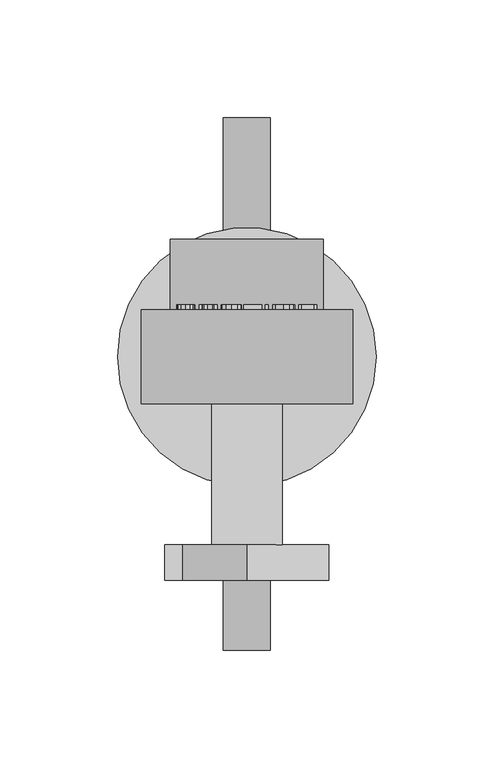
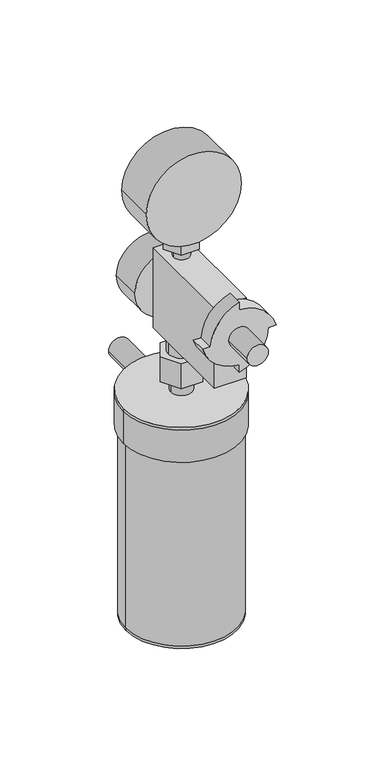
"""IFC4 building model written with IfcOpenShell, lengths in millimetres: proxy geometry, BIMHealth-Flowmeter_Suction-LOD2A-v1 : BIMHealth-Flowmeter_Suction-LOD2A-v1."""

from ifc_helpers import new_model, si_unit, point, frame, frame_2d, origin, place, context, project, spatial, polyline, circle_curve, trimmed, segment, composite_curve, outline, extrude, source, transform, mapped, element, save
from ifc_brep_helpers import plane_surface, cylinder_surface, revolved_surface, advanced_brep


def generic_models_4addcc0f(model_context):
    return source(origin(), model_context, "Body", "SolidModel", [
        extrude(outline(polyline([(1311.533621, -29.8591458), (1309.6538134, -29.3278958), (1308.408621, -27.9372708), (1307.9951595, -25.7389535), (1308.378573, -23.8771746), (1309.4530922, -22.6079439), (1310.925448, -22.1668381), (1312.3172749, -22.5502515), (1313.314871, -23.7413573), (1313.9326595, -25.9192419), (1314.6201595, -27.9288573), (1315.4735249, -28.3206842), (1316.4951595, -27.7677996), (1316.9182364, -26.0057804), (1316.4903518, -24.2485689), (1315.2259287, -23.5514535), (1315.2259287, -22.3206842), (1316.7667941, -22.808665), (1317.7980441, -24.1067419), (1318.1490057, -26.0538573), (1317.8136691, -27.8783765), (1316.830496, -29.1247708), (1315.4374672, -29.5514535), (1314.2139095, -29.2065015), (1313.2980441, -28.1596265), (1312.691073, -26.23054), (1312.221121, -24.4384727), (1311.6622268, -23.6019342), (1310.894198, -23.3976073), (1310.0684768, -23.6704439), (1309.4506884, -24.5009727), (1309.2259287, -25.7870304), (1309.5228037, -27.2629919), (1310.3016499, -28.2317419), (1311.533621, -28.6283765), (1311.533621, -29.8591458)])), frame((0.0, 0.0, 0.0), z_axis=(0.0, 1.0, 0.0), x_axis=(0.0, 0.0, 1.0)), (0.0, 0.0, 1.0), 2.0),
        extrude(outline(polyline([(1317.9951595, -13.8591458), (1312.3581403, -13.8591458), (1309.8725634, -14.4817419), (1309.2259287, -16.5658765), (1309.5528518, -18.0129919), (1310.4819384, -18.8471265), (1312.3581403, -19.089915), (1317.9951595, -19.089915), (1317.9951595, -20.3206842), (1312.314871, -20.3206842), (1309.8497268, -19.9468862), (1308.471121, -18.69929), (1307.9951595, -16.4504919), (1308.5420345, -14.1668381), (1309.9603037, -12.9625112), (1312.314871, -12.6283765), (1317.9951595, -12.6283765), (1317.9951595, -13.8591458)])), frame((0.0, 0.0, 0.0), z_axis=(0.0, 1.0, 0.0), x_axis=(0.0, 0.0, 1.0)), (0.0, 0.0, 1.0), 2.0),
        extrude(outline(polyline([(1311.6490057, -3.5514535), (1309.8365057, -4.5959246), (1309.2259287, -6.4793381), (1309.674246, -8.1776554), (1311.0288134, -9.3339054), (1313.1490057, -9.7052996), (1314.9783326, -9.3915977), (1316.3917941, -8.3038573), (1316.9182364, -6.3783765), (1316.4434768, -4.714915), (1314.9302557, -3.7052996), (1315.2235249, -2.4745304), (1317.3821787, -3.8651554), (1318.1490057, -6.3302996), (1317.5564576, -8.6956842), (1315.8220826, -10.3531362), (1313.1466018, -10.9360689), (1310.5143903, -10.4204439), (1308.6417941, -8.91804), (1307.9951595, -6.3567419), (1308.8497268, -3.7798189), (1311.331698, -2.3206842), (1311.6490057, -3.5514535)])), frame((0.0, 0.0, 0.0), z_axis=(0.0, 1.0, 0.0), x_axis=(0.0, 0.0, 1.0)), (0.0, 0.0, 1.0), 2.0),
        extrude(outline(polyline([(1308.1490057, 1.8331619), (1308.1490057, 3.0639311), (1316.7643903, 3.0639311), (1316.7643903, 6.2947004), (1317.9951595, 6.2947004), (1317.9951595, -1.3976073), (1316.7643903, -1.3976073), (1316.7643903, 1.8331619), (1308.1490057, 1.8331619)])), frame((0.0, 0.0, 0.0), z_axis=(0.0, 1.0, 0.0), x_axis=(0.0, 0.0, 1.0)), (0.0, 0.0, 1.0), 2.0),
        extrude(outline(polyline([(9.0639311, 2.0), (9.0639311, 0.0), (7.8331619, 0.0), (7.8331619, 2.0), (9.0639311, 2.0)])), frame((0.0, 0.0, 1308.1490057), z_axis=(0.0, 0.0, 1.0), x_axis=(1.0, 0.0, 0.0)), (0.0, 0.0, 1.0), 9.8461538),
        extrude(outline(polyline([(1312.9422749, 11.0639311), (1310.4915537, 11.6264311), (1308.6646307, 13.2802773), (1307.9951595, 15.7562388), (1308.6009287, 18.1396523), (1310.3845826, 19.8463831), (1313.0552557, 20.4485465), (1315.689871, 19.8764311), (1317.4999672, 18.2129696), (1318.1490057, 15.7634504), (1316.7667941, 12.3764311), (1312.9422749, 11.0639311)]), holes=[polyline([(1312.9302557, 12.2947004), (1315.9987653, 13.3211427), (1316.9182364, 15.7706619), (1316.441073, 17.5771523), (1315.096121, 18.7995081), (1313.064871, 19.2177773), (1310.2259287, 18.2406138), (1309.2259287, 15.7490273), (1310.2163134, 13.2790754), (1312.9302557, 12.2947004)])]), frame((0.0, 0.0, 0.0), z_axis=(0.0, 1.0, 0.0), x_axis=(0.0, 0.0, 1.0)), (0.0, 0.0, 1.0), 2.0),
        extrude(outline(polyline([(1308.1490057, 22.1408542), (1308.1490057, 23.3716235), (1315.9518903, 23.3716235), (1308.1490057, 28.5158542), (1308.1490057, 29.8331619), (1317.9951595, 29.8331619), (1317.9951595, 28.6023927), (1310.1946787, 28.6023927), (1317.9951595, 23.4581619), (1317.9951595, 22.1408542), (1308.1490057, 22.1408542)])), frame((0.0, 0.0, 0.0), z_axis=(0.0, 1.0, 0.0), x_axis=(0.0, 0.0, 1.0)), (0.0, 0.0, 1.0), 2.0),
        extrude(outline(composite_curve([segment(trimmed(circle_curve(frame_2d((1215.0, 0.0)), 10.0), [point((1215.0, 10.0))], [point((1215.0, -10.0))], False, "CARTESIAN"), True, "CONTINUOUS"), segment(trimmed(circle_curve(frame_2d((1215.0, 0.0)), 10.0), [point((1215.0, -10.0))], [point((1215.0, 10.0))], False, "CARTESIAN"), True, "CONTINUOUS")], self_intersect=False)), frame((0.0, -144.9187419, 0.0), z_axis=(0.0, 1.0, 0.0), x_axis=(0.0, 0.0, 1.0)), (0.0, 0.0, 1.0), 29.9187419),
        extrude(outline(composite_curve([segment(trimmed(circle_curve(frame_2d((1085.2946701, 0.0)), 10.0), [point((1085.2946701, 10.0))], [point((1085.2946701, -10.0))], False, "CARTESIAN"), True, "CONTINUOUS"), segment(trimmed(circle_curve(frame_2d((1085.2946701, 0.0)), 10.0), [point((1085.2946701, -10.0))], [point((1085.2946701, 10.0))], False, "CARTESIAN"), True, "CONTINUOUS")], self_intersect=False)), frame((0.0, 0.0, 0.0), z_axis=(0.0, 1.0, 0.0), x_axis=(0.0, 0.0, 1.0)), (0.0, 0.0, 1.0), 81.7607119),
        advanced_brep(
        [(-55.0, -20.0, 1105.6199974), (55.0, -20.0, 1105.6199974), (52.5, -20.0, 1102.8021553), (-52.5, -20.0, 1102.8021553), (55.0, -20.0, 1102.8021553), (-55.0, -20.0, 1102.8021553), (-55.0, -20.0, 1070.6762911), (55.0, -20.0, 1070.6762911), (52.5, -20.0, 1070.6762911), (-52.5, -20.0, 1070.6762911)],
        [
            (0, 1, circle_curve(frame((0.0, -20.0, 1105.6199974), z_axis=(0.0, 0.0, 1.0), x_axis=(1.0, 0.0, 0.0)), 55.0)),
            (1, 0, circle_curve(frame((0.0, -20.0, 1105.6199974), z_axis=(0.0, 0.0, 1.0), x_axis=(1.0, 0.0, 0.0)), 55.0)),
            (2, 3, circle_curve(frame((0.0, -20.0, 1102.8021553), z_axis=(0.0, 0.0, -1.0), x_axis=(1.0, 0.0, 0.0)), 52.5)),
            (3, 2, circle_curve(frame((0.0, -20.0, 1102.8021553), z_axis=(0.0, 0.0, -1.0), x_axis=(1.0, 0.0, 0.0)), 52.5)),
            (1, 4),
            (4, 5, circle_curve(frame((0.0, -20.0, 1102.8021553), z_axis=(0.0, 0.0, 1.0), x_axis=(1.0, 0.0, 0.0)), 55.0)),
            (5, 0),
            (5, 4, circle_curve(frame((0.0, -20.0, 1102.8021553), z_axis=(0.0, 0.0, 1.0), x_axis=(1.0, 0.0, 0.0)), 55.0)),
            (6, 7, circle_curve(frame((0.0, -20.0, 1070.6762911), z_axis=(0.0, 0.0, -1.0), x_axis=(1.0, 0.0, 0.0)), 55.0)),
            (7, 6, circle_curve(frame((0.0, -20.0, 1070.6762911), z_axis=(0.0, 0.0, -1.0), x_axis=(1.0, 0.0, 0.0)), 55.0)),
            (8, 9, circle_curve(frame((0.0, -20.0, 1070.6762911), z_axis=(0.0, 0.0, 1.0), x_axis=(1.0, 0.0, 0.0)), 52.5)),
            (9, 8, circle_curve(frame((0.0, -20.0, 1070.6762911), z_axis=(0.0, 0.0, 1.0), x_axis=(1.0, 0.0, 0.0)), 52.5)),
            (6, 5),
            (4, 7),
            (8, 2),
            (3, 9),
        ],
        [
            plane_surface(frame((55.0, -20.0, 1105.6199974), z_axis=(0.0, 0.0, 1.0), x_axis=(0.0, -1.0, 0.0))),
            plane_surface(frame((55.0, -20.0, 1102.8021553), z_axis=(0.0, 0.0, -1.0), x_axis=(0.0, 1.0, 0.0))),
            cylinder_surface(frame((0.0, -20.0, 1102.8021553), z_axis=(0.0, 0.0, 1.0), x_axis=(1.0, 0.0, 0.0)), 55.0),
            plane_surface(frame((55.0, -20.0, 1070.6762911), z_axis=(0.0, 0.0, -1.0), x_axis=(0.0, 1.0, 0.0))),
            cylinder_surface(frame((0.0, -20.0, 1070.6762911), z_axis=(0.0, 0.0, 1.0), x_axis=(1.0, 0.0, 0.0)), 55.0),
            revolved_surface(polyline([(52.5, -20.0, 1070.6762911), (52.5, -20.0, 1102.8021553)]), (0.0, -20.0, 0.0), (0.0, 0.0, -1.0)),
        ],
        [
            (0, [[1, 2]]),
            (1, [[3, 4]]),
            (2, [[5, 6, 7, -2]]),
            (2, [[-7, 8, -5, -1]]),
            (3, [[9, 10], [11, 12]]),
            (4, [[13, -6, 14, -9]]),
            (4, [[-14, -8, -13, -10]]),
            (5, [[15, -4, 16, -11]]),
            (5, [[-16, -3, -15, -12]]),
        ],
    ),
        advanced_brep(
        [(-52.5, -20.0, 882.8021553), (52.5, -20.0, 882.8021553), (50.0, -20.0, 885.2126899), (-50.0, -20.0, 885.2126899), (-52.5, -20.0, 1100.4221861), (52.5, -20.0, 1100.4221861), (-50.0, -20.0, 1100.4221861), (50.0, -20.0, 1100.4221861), (-52.5, -20.0, 885.2126899), (52.5, -20.0, 885.2126899)],
        [
            (0, 1, circle_curve(frame((0.0, -20.0, 882.8021553), z_axis=(0.0, 0.0, -1.0), x_axis=(1.0, 0.0, 0.0)), 52.5)),
            (1, 0, circle_curve(frame((0.0, -20.0, 882.8021553), z_axis=(0.0, 0.0, -1.0), x_axis=(1.0, 0.0, 0.0)), 52.5)),
            (2, 3, circle_curve(frame((0.0, -20.0, 885.2126899), z_axis=(0.0, 0.0, 1.0), x_axis=(1.0, 0.0, 0.0)), 50.0)),
            (3, 2, circle_curve(frame((0.0, -20.0, 885.2126899), z_axis=(0.0, 0.0, 1.0), x_axis=(1.0, 0.0, 0.0)), 50.0)),
            (4, 5, circle_curve(frame((0.0, -20.0, 1100.4221861), z_axis=(0.0, 0.0, 1.0), x_axis=(1.0, 0.0, 0.0)), 52.5)),
            (5, 4, circle_curve(frame((0.0, -20.0, 1100.4221861), z_axis=(0.0, 0.0, 1.0), x_axis=(1.0, 0.0, 0.0)), 52.5)),
            (6, 7, circle_curve(frame((0.0, -20.0, 1100.4221861), z_axis=(0.0, 0.0, -1.0), x_axis=(1.0, 0.0, 0.0)), 50.0)),
            (7, 6, circle_curve(frame((0.0, -20.0, 1100.4221861), z_axis=(0.0, 0.0, -1.0), x_axis=(1.0, 0.0, 0.0)), 50.0)),
            (4, 8),
            (8, 9, circle_curve(frame((0.0, -20.0, 885.2126899), z_axis=(0.0, 0.0, 1.0), x_axis=(1.0, 0.0, 0.0)), 52.5)),
            (9, 5),
            (9, 8, circle_curve(frame((0.0, -20.0, 885.2126899), z_axis=(0.0, 0.0, 1.0), x_axis=(1.0, 0.0, 0.0)), 52.5)),
            (7, 2),
            (3, 6),
            (0, 8),
            (9, 1),
        ],
        [
            plane_surface(frame((52.5, -20.0, 882.8021553), z_axis=(0.0, 0.0, -1.0), x_axis=(0.0, 1.0, 0.0))),
            plane_surface(frame((52.5, -20.0, 885.2126899), z_axis=(0.0, 0.0, 1.0), x_axis=(0.0, -1.0, 0.0))),
            plane_surface(frame((52.5, -20.0, 1100.4221861), z_axis=(0.0, 0.0, 1.0), x_axis=(0.0, -1.0, 0.0))),
            cylinder_surface(frame((0.0, -20.0, 882.8021553), z_axis=(0.0, 0.0, 1.0), x_axis=(1.0, 0.0, 0.0)), 52.5),
            revolved_surface(polyline([(50.0, -20.0, 885.2126899), (50.0, -20.0, 1100.4221861)]), (0.0, -20.0, 0.0), (0.0, 0.0, -1.0)),
        ],
        [
            (0, [[1, 2]]),
            (1, [[3, 4]]),
            (2, [[5, 6], [7, 8]]),
            (3, [[9, 10, 11, -5]]),
            (3, [[-11, 12, -9, -6]]),
            (4, [[13, -4, 14, -8]]),
            (4, [[-14, -3, -13, -7]]),
            (3, [[15, -12, 16, -1]]),
            (3, [[-16, -10, -15, -2]]),
        ],
    ),
        extrude(outline(composite_curve([segment(trimmed(circle_curve(frame_2d((1204.401832, -1.6248415)), 37.9936724), [point((1215.0, 34.8607444))], [point((1242.3607444, 0.0))], False, "CARTESIAN"), True, "CONTINUOUS"), segment(polyline([(1242.3607444, 0.0), (1249.8607444, 0.0)]), True, "CONTINUOUS"), segment(trimmed(circle_curve(frame_2d((1213.3751585, 10.598168)), 37.9936724), [point((1249.8607444, 0.0))], [point((1215.0, -27.3607444))], False, "CARTESIAN"), True, "CONTINUOUS"), segment(polyline([(1215.0, -27.3607444), (1215.0, -34.8607444)]), True, "CONTINUOUS"), segment(trimmed(circle_curve(frame_2d((1225.598168, 1.6248415)), 37.9936724), [point((1215.0, -34.8607444))], [point((1187.6392556, 0.0))], False, "CARTESIAN"), True, "CONTINUOUS"), segment(polyline([(1187.6392556, 0.0), (1180.1392556, 0.0)]), True, "CONTINUOUS"), segment(trimmed(circle_curve(frame_2d((1216.6248415, -10.598168)), 37.9936724), [point((1180.1392556, 0.0))], [point((1215.0, 27.3607444))], False, "CARTESIAN"), True, "CONTINUOUS"), segment(polyline([(1215.0, 27.3607444), (1215.0, 34.8607444)]), True, "CONTINUOUS")], self_intersect=False)), frame((0.0, -115.0, 0.0), z_axis=(0.0, 1.0, 0.0), x_axis=(0.0, 0.0, 1.0)), (0.0, 0.0, 1.0), 15.0),
        extrude(outline(composite_curve([segment(trimmed(circle_curve(frame_2d((1307.6114455, 0.0)), 45.0), [point((1307.6114455, -45.0))], [point((1307.6114455, 45.0))], False, "CARTESIAN"), True, "CONTINUOUS"), segment(trimmed(circle_curve(frame_2d((1307.6114455, 0.0)), 45.0), [point((1307.6114455, 45.0))], [point((1307.6114455, -45.0))], False, "CARTESIAN"), True, "CONTINUOUS")], self_intersect=False)), frame((0.0, -40.0, 0.0), z_axis=(0.0, 1.0, 0.0), x_axis=(0.0, 0.0, 1.0)), (0.0, 0.0, 1.0), 40.0),
        extrude(outline(polyline([(8.5566243, -34.8205081), (-8.5566243, -34.8205081), (-17.1132487, -20.0), (-8.5566243, -5.1794919), (8.5566243, -5.1794919), (17.1132487, -20.0), (8.5566243, -34.8205081)])), frame((0.0, 0.0, 1251.3057227), z_axis=(0.0, 0.0, 1.0), x_axis=(1.0, 0.0, 0.0)), (0.0, 0.0, 1.0), 25.0),
        extrude(outline(composite_curve([segment(trimmed(circle_curve(frame_2d((0.0, -20.0)), 7.5), [point((-7.5, -20.0))], [point((7.5, -20.0))], False, "CARTESIAN"), True, "CONTINUOUS"), segment(trimmed(circle_curve(frame_2d((0.0, -20.0)), 7.5), [point((7.5, -20.0))], [point((-7.5, -20.0))], False, "CARTESIAN"), True, "CONTINUOUS")], self_intersect=False)), frame((0.0, 0.0, 1240.0), z_axis=(0.0, 0.0, 1.0), x_axis=(1.0, 0.0, 0.0)), (0.0, 0.0, 1.0), 11.3057227),
        extrude(outline(composite_curve([segment(trimmed(circle_curve(frame_2d((0.0, -20.0)), 10.0), [point((-10.0, -20.0))], [point((10.0, -20.0))], False, "CARTESIAN"), True, "CONTINUOUS"), segment(trimmed(circle_curve(frame_2d((0.0, -20.0)), 10.0), [point((10.0, -20.0))], [point((-10.0, -20.0))], False, "CARTESIAN"), True, "CONTINUOUS")], self_intersect=False)), frame((0.0, 0.0, 1105.6199974), z_axis=(0.0, 0.0, 1.0), x_axis=(1.0, 0.0, 0.0)), (0.0, 0.0, 1.0), 14.3800026),
        extrude(outline(composite_curve([segment(trimmed(circle_curve(frame_2d((0.0, -20.0)), 12.5), [point((-12.5, -20.0))], [point((12.5, -20.0))], False, "CARTESIAN"), True, "CONTINUOUS"), segment(trimmed(circle_curve(frame_2d((0.0, -20.0)), 12.5), [point((12.5, -20.0))], [point((-12.5, -20.0))], False, "CARTESIAN"), True, "CONTINUOUS")], self_intersect=False)), frame((0.0, 0.0, 1145.0), z_axis=(0.0, 0.0, 1.0), x_axis=(1.0, 0.0, 0.0)), (0.0, 0.0, 1.0), 15.0),
        extrude(outline(polyline([(10.0, -37.3205081), (-10.0, -37.3205081), (-20.0, -20.0), (-10.0, -2.6794919), (10.0, -2.6794919), (20.0, -20.0), (10.0, -37.3205081)])), frame((0.0, 0.0, 1120.0), z_axis=(0.0, 0.0, 1.0), x_axis=(1.0, 0.0, 0.0)), (0.0, 0.0, 1.0), 25.0),
        extrude(outline(polyline([(15.0, 0.0), (15.0, -100.0), (-15.0, -100.0), (-15.0, 0.0), (15.0, 0.0)])), frame((0.0, 0.0, 1160.0), z_axis=(0.0, 0.0, 1.0), x_axis=(1.0, 0.0, 0.0)), (0.0, 0.0, 1.0), 80.0),
        extrude(outline(composite_curve([segment(trimmed(circle_curve(frame_2d((1200.0, 0.0)), 32.5), [point((1200.0, -32.5))], [point((1200.0, 32.5))], False, "CARTESIAN"), True, "CONTINUOUS"), segment(trimmed(circle_curve(frame_2d((1200.0, 0.0)), 32.5), [point((1200.0, 32.5))], [point((1200.0, -32.5))], False, "CARTESIAN"), True, "CONTINUOUS")], self_intersect=False)), frame((0.0, 0.0, 0.0), z_axis=(0.0, 1.0, 0.0), x_axis=(0.0, 0.0, 1.0)), (0.0, 0.0, 1.0), 30.0),
    ])


if __name__ == "__main__":
    model = new_model("IFC4")
    model_context = context("Model", 3, world=origin())
    ifc_project = project(units=[si_unit("LENGTHUNIT", "METRE", prefix="MILLI")], contexts=[model_context])
    site = spatial("IfcSite", under=ifc_project)
    building = spatial("IfcBuilding", under=site)
    placement = place(None, origin())
    generic_models_shape = generic_models_4addcc0f(model_context)
    element("IfcBuildingElementProxy", 1, Name="BIMHealth-Flowmeter_Suction-LOD2A-v1 : BIMHealth-Flowmeter_Suction-LOD2A-v1", ObjectType="BIMHealth-Flowmeter_Suction-LOD2A-v1 : BIMHealth-Flowmeter_Suction-LOD2A-v1", at=placement, inside=building, context=model_context, shape_type="MappedRepresentation", body=[
        mapped(generic_models_shape, transform((0.0, 0.0, 0.0), x_axis=(1.0, 0.0, 0.0), y_axis=(0.0, 1.0, 0.0), z_axis=(0.0, 0.0, 1.0))),
    ])
    save(model, "model.ifc")
